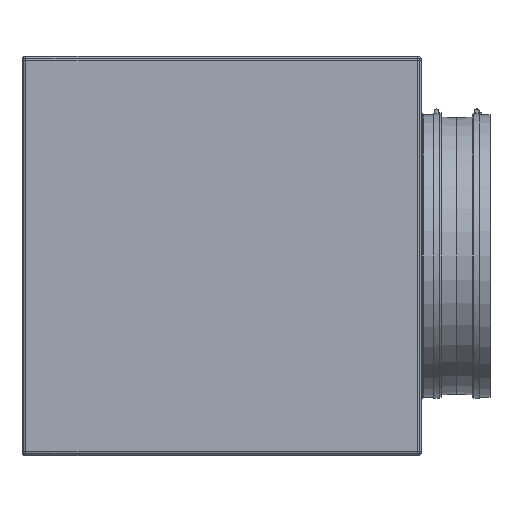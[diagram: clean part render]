
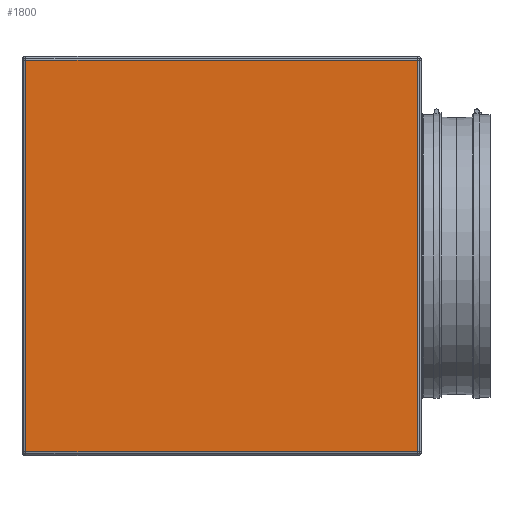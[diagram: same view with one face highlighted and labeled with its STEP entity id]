
A CAD part, left-side view. The second image highlights one B-rep face of the part: STEP entity #1800.
In plain terms, the highlighted planar face has unit normal (-1, 0, 0).
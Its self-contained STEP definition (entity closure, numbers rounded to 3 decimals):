
#153=PLANE('',#2008);
#248=FACE_OUTER_BOUND('',#411,.T.);
#411=EDGE_LOOP('',(#1413,#1414,#1415,#1416));
#553=LINE('',#2864,#647);
#556=LINE('',#2897,#650);
#559=LINE('',#2901,#653);
#575=LINE('',#2939,#669);
#647=VECTOR('',#2316,10.);
#650=VECTOR('',#2355,10.);
#653=VECTOR('',#2360,10.);
#669=VECTOR('',#2408,10.);
#887=VERTEX_POINT('',#2852);
#888=VERTEX_POINT('',#2856);
#891=VERTEX_POINT('',#2866);
#902=VERTEX_POINT('',#2893);
#1061=EDGE_CURVE('',#888,#887,#553,.T.);
#1076=EDGE_CURVE('',#891,#902,#556,.T.);
#1079=EDGE_CURVE('',#902,#888,#559,.T.);
#1101=EDGE_CURVE('',#887,#891,#575,.T.);
#1413=ORIENTED_EDGE('',*,*,#1076,.F.);
#1414=ORIENTED_EDGE('',*,*,#1101,.F.);
#1415=ORIENTED_EDGE('',*,*,#1061,.F.);
#1416=ORIENTED_EDGE('',*,*,#1079,.F.);
#1800=ADVANCED_FACE('',(#248),#153,.T.);
#2008=AXIS2_PLACEMENT_3D('',#2941,#2411,#2412);
#2316=DIRECTION('',(0.,1.,0.));
#2355=DIRECTION('',(0.,-1.,0.));
#2360=DIRECTION('',(0.,0.,-1.));
#2408=DIRECTION('',(0.,0.,1.));
#2411=DIRECTION('center_axis',(-1.,0.,0.));
#2412=DIRECTION('ref_axis',(0.,0.,1.));
#2852=CARTESIAN_POINT('',(-510.,500.,-500.));
#2856=CARTESIAN_POINT('',(-510.,-500.,-500.));
#2864=CARTESIAN_POINT('',(-510.,0.,-500.));
#2866=CARTESIAN_POINT('',(-510.,500.,500.));
#2893=CARTESIAN_POINT('',(-510.,-500.,500.));
#2897=CARTESIAN_POINT('',(-510.,0.,500.));
#2901=CARTESIAN_POINT('',(-510.,-500.,-255.));
#2939=CARTESIAN_POINT('',(-510.,500.,-255.));
#2941=CARTESIAN_POINT('Origin',(-510.,0.,-510.));
